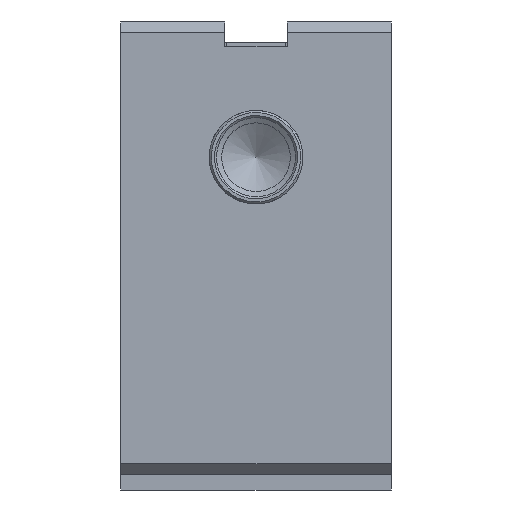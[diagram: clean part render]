
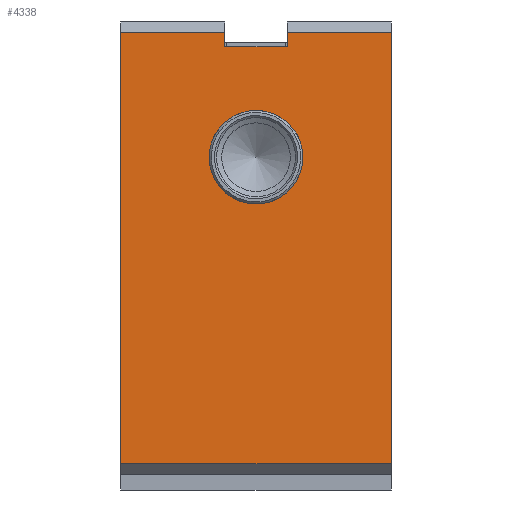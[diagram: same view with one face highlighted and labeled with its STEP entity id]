
A CAD part, left-side view. The second image highlights one B-rep face of the part: STEP entity #4338.
In plain terms, the highlighted planar face has unit normal (-1, 0, 0).
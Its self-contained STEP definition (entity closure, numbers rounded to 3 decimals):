
#114 = LINE ( 'NONE', #2230, #3307 ) ;
#125 = VECTOR ( 'NONE', #4185, 1000. ) ;
#137 = VECTOR ( 'NONE', #2098, 1000. ) ;
#256 = CIRCLE ( 'NONE', #5310, 2.25 ) ;
#386 = VERTEX_POINT ( 'NONE', #5900 ) ;
#418 = VERTEX_POINT ( 'NONE', #3808 ) ;
#435 = EDGE_CURVE ( 'NONE', #1973, #994, #982, .T. ) ;
#486 = ORIENTED_EDGE ( 'NONE', *, *, #435, .T. ) ;
#522 = VERTEX_POINT ( 'NONE', #2958 ) ;
#541 = LINE ( 'NONE', #1542, #137 ) ;
#544 = FACE_BOUND ( 'NONE', #840, .T. ) ;
#599 = EDGE_CURVE ( 'NONE', #3273, #4653, #3573, .T. ) ;
#608 = ORIENTED_EDGE ( 'NONE', *, *, #2588, .T. ) ;
#702 = VERTEX_POINT ( 'NONE', #1632 ) ;
#784 = CARTESIAN_POINT ( 'NONE',  ( 0., 6.5, -5.5 ) ) ;
#840 = EDGE_LOOP ( 'NONE', ( #3068 ) ) ;
#914 = CARTESIAN_POINT ( 'NONE',  ( 0., 8., 0. ) ) ;
#982 = LINE ( 'NONE', #4019, #4450 ) ;
#994 = VERTEX_POINT ( 'NONE', #1351 ) ;
#1008 = DIRECTION ( 'NONE',  ( 0., 0., -1. ) ) ;
#1184 = DIRECTION ( 'NONE',  ( 0., 0., 1. ) ) ;
#1351 = CARTESIAN_POINT ( 'NONE',  ( 0., 0., 0.5 ) ) ;
#1358 = CARTESIAN_POINT ( 'NONE',  ( 0., 0., -20.25 ) ) ;
#1542 = CARTESIAN_POINT ( 'NONE',  ( 0., 13., -0.2 ) ) ;
#1632 = CARTESIAN_POINT ( 'NONE',  ( 0., 5., -0.2 ) ) ;
#1964 = CARTESIAN_POINT ( 'NONE',  ( 0., 8., 0.5 ) ) ;
#1973 = VERTEX_POINT ( 'NONE', #1358 ) ;
#1988 = DIRECTION ( 'NONE',  ( 0., 0., 1. ) ) ;
#2001 = CARTESIAN_POINT ( 'NONE',  ( 0., 13., 0. ) ) ;
#2038 = EDGE_CURVE ( 'NONE', #418, #702, #4695, .T. ) ;
#2098 = DIRECTION ( 'NONE',  ( 0., -1., 0. ) ) ;
#2126 = CARTESIAN_POINT ( 'NONE',  ( 0., 13., -20.25 ) ) ;
#2137 = PLANE ( 'NONE',  #3461 ) ;
#2160 = CARTESIAN_POINT ( 'NONE',  ( 0., 5., 0. ) ) ;
#2230 = CARTESIAN_POINT ( 'NONE',  ( 0., 13., 0.5 ) ) ;
#2537 = VECTOR ( 'NONE', #3780, 1000. ) ;
#2588 = EDGE_CURVE ( 'NONE', #4653, #522, #2651, .T. ) ;
#2651 = LINE ( 'NONE', #5735, #2537 ) ;
#2949 = ORIENTED_EDGE ( 'NONE', *, *, #599, .T. ) ;
#2958 = CARTESIAN_POINT ( 'NONE',  ( 0., 13., 0.5 ) ) ;
#3068 = ORIENTED_EDGE ( 'NONE', *, *, #3472, .F. ) ;
#3069 = DIRECTION ( 'NONE',  ( 1., 0., 0. ) ) ;
#3135 = EDGE_CURVE ( 'NONE', #994, #418, #114, .T. ) ;
#3273 = VERTEX_POINT ( 'NONE', #5561 ) ;
#3307 = VECTOR ( 'NONE', #4862, 1000. ) ;
#3461 = AXIS2_PLACEMENT_3D ( 'NONE', #2001, #3069, #4095 ) ;
#3472 = EDGE_CURVE ( 'NONE', #5451, #5451, #256, .T. ) ;
#3573 = LINE ( 'NONE', #914, #3678 ) ;
#3678 = VECTOR ( 'NONE', #1988, 1000. ) ;
#3723 = LINE ( 'NONE', #4994, #4237 ) ;
#3780 = DIRECTION ( 'NONE',  ( 0., 1., 0. ) ) ;
#3789 = ORIENTED_EDGE ( 'NONE', *, *, #2038, .T. ) ;
#3808 = CARTESIAN_POINT ( 'NONE',  ( 0., 5., 0.5 ) ) ;
#3894 = ORIENTED_EDGE ( 'NONE', *, *, #3135, .T. ) ;
#4019 = CARTESIAN_POINT ( 'NONE',  ( 0., 0., 0. ) ) ;
#4095 = DIRECTION ( 'NONE',  ( 0., 0., -1. ) ) ;
#4185 = DIRECTION ( 'NONE',  ( 0., -1., 0. ) ) ;
#4194 = ORIENTED_EDGE ( 'NONE', *, *, #5485, .F. ) ;
#4237 = VECTOR ( 'NONE', #6066, 1000. ) ;
#4338 = ADVANCED_FACE ( 'NONE', ( #5796, #544 ), #2137, .F. ) ;
#4450 = VECTOR ( 'NONE', #4536, 1000. ) ;
#4536 = DIRECTION ( 'NONE',  ( 0., 0., 1. ) ) ;
#4653 = VERTEX_POINT ( 'NONE', #1964 ) ;
#4695 = LINE ( 'NONE', #2160, #5392 ) ;
#4743 = EDGE_LOOP ( 'NONE', ( #6295, #2949, #608, #4194, #6500, #486, #3894, #3789 ) ) ;
#4862 = DIRECTION ( 'NONE',  ( 0., 1., 0. ) ) ;
#4923 = CARTESIAN_POINT ( 'NONE',  ( 0., 6.5, -3.25 ) ) ;
#4994 = CARTESIAN_POINT ( 'NONE',  ( 0., 13., 0. ) ) ;
#5310 = AXIS2_PLACEMENT_3D ( 'NONE', #784, #5395, #1184 ) ;
#5392 = VECTOR ( 'NONE', #1008, 1000. ) ;
#5395 = DIRECTION ( 'NONE',  ( -1., 0., 0. ) ) ;
#5451 = VERTEX_POINT ( 'NONE', #4923 ) ;
#5485 = EDGE_CURVE ( 'NONE', #386, #522, #3723, .T. ) ;
#5561 = CARTESIAN_POINT ( 'NONE',  ( 0., 8., -0.2 ) ) ;
#5663 = LINE ( 'NONE', #2126, #125 ) ;
#5735 = CARTESIAN_POINT ( 'NONE',  ( 0., 13., 0.5 ) ) ;
#5796 = FACE_OUTER_BOUND ( 'NONE', #4743, .T. ) ;
#5900 = CARTESIAN_POINT ( 'NONE',  ( 0., 13., -20.25 ) ) ;
#6066 = DIRECTION ( 'NONE',  ( 0., 0., 1. ) ) ;
#6221 = EDGE_CURVE ( 'NONE', #3273, #702, #541, .T. ) ;
#6295 = ORIENTED_EDGE ( 'NONE', *, *, #6221, .F. ) ;
#6500 = ORIENTED_EDGE ( 'NONE', *, *, #6699, .T. ) ;
#6699 = EDGE_CURVE ( 'NONE', #386, #1973, #5663, .T. ) ;
